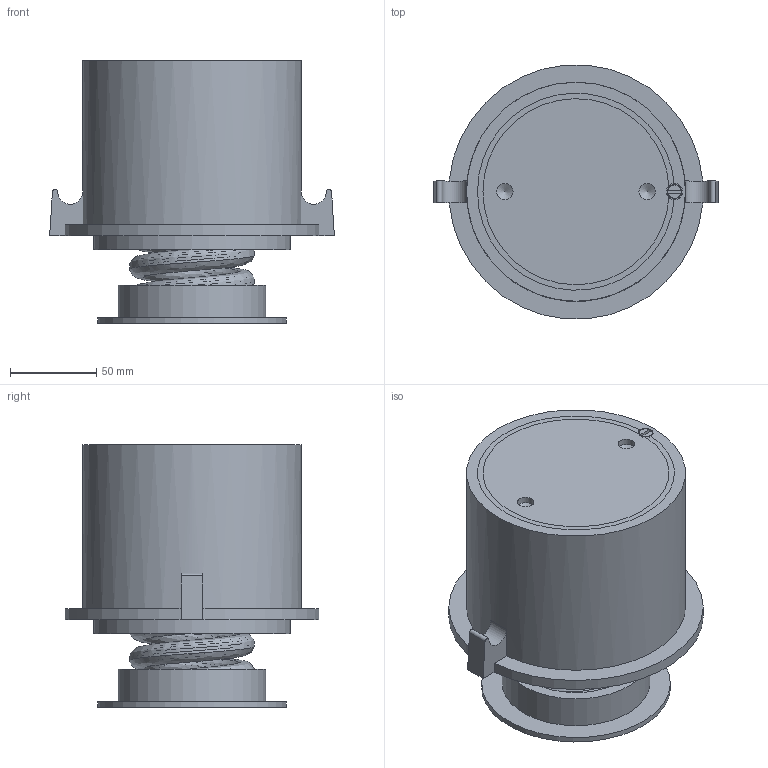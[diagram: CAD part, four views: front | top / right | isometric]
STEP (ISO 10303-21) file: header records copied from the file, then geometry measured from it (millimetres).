
FILE_DESCRIPTION(/* description */ (''),/* implementation_level */ '2;1');
FILE_NAME(/* name */ '\\Mleuckthor2\cad-proe_solids\WEBSITE FILES 05.22.13\STEP\FS\FSC-4 with 2inchAirGap.stp',/* time_stamp */ '2016-03-11T18:41:06-05:00',/* author */ ('rramoutar'),/* organization */ ('Mason Industries Inc.'),/* preprocessor_version */ 'ST-DEVELOPER v15.6',/* originating_system */ 'Autodesk Inventor 2015',/* authorisation */ '');
FILE_SCHEMA (('AUTOMOTIVE_DESIGN { 1 0 10303 214 3 1 1 }'));
Length unit declared in the file: inch
Products named in the file (1): FS4-C-2935_2IN AIR GAP
Bounding box: 165.1 x 147.07 x 152.4 mm (x, y, z)
Volume: 912324.2 mm3; surface area: 315518.3 mm2
Topology: 7 solids, 7 shells, 98 faces, 235 edges, 154 vertices
Faces by surface type: plane 41, cylinder 27, bspline 22, cone 6, sphere 2
Full cylindrical faces by diameter (mm): 9.525 x3, 15.875 x2, 73.025 x1, 76.2 x4, 85.725 x1, 101.6 x1, 107.95 x1, 109.537 x1, 114.3 x1, 127 x1
Entity records: 12491 total; most frequent: CARTESIAN_POINT 10329, ORIENTED_EDGE 414, DIRECTION 372, EDGE_CURVE 207, VERTEX_POINT 147, AXIS2_PLACEMENT_3D 142, EDGE_LOOP 132, FACE_OUTER_BOUND 98
